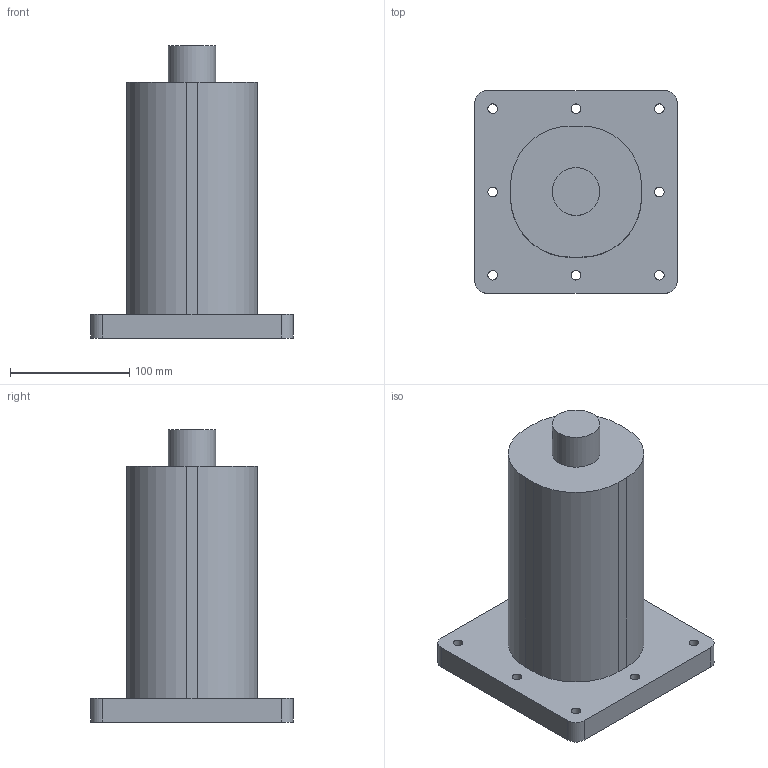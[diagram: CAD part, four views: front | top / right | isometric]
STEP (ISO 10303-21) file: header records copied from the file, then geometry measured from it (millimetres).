
FILE_DESCRIPTION(/* description */ (''),/* implementation_level */ '2;1');
FILE_NAME(/* name */ 'czlon1.step',/* time_stamp */ '2026-03-04T15:15:15+01:00',/* author */ (''),/* organization */ (''),/* preprocessor_version */ 'ST-DEVELOPER v20.1',/* originating_system */ 'Autodesk Translation Framework v14.24.0.0',/* authorisation */ '');
FILE_SCHEMA (('AUTOMOTIVE_DESIGN { 1 0 10303 214 3 1 1 }'));
Length unit declared in the file: millimetre
Products named in the file (1): czlon1
Bounding box: 170 x 170 x 245.5 mm (x, y, z)
Volume: 2547594.6 mm3; surface area: 146995.7 mm2
Topology: 1 solids, 1 shells, 29 faces, 75 edges, 50 vertices
Faces by surface type: cylinder 17, plane 12
Full cylindrical faces by diameter (mm): 8 x8, 40 x1
Entity records: 968 total; most frequent: DIRECTION 169, CARTESIAN_POINT 155, ORIENTED_EDGE 150, EDGE_CURVE 75, AXIS2_PLACEMENT_3D 64, VERTEX_POINT 50, EDGE_LOOP 47, LINE 41
